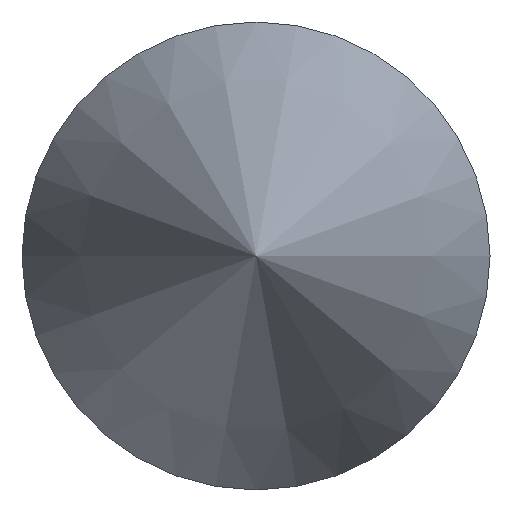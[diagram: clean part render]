
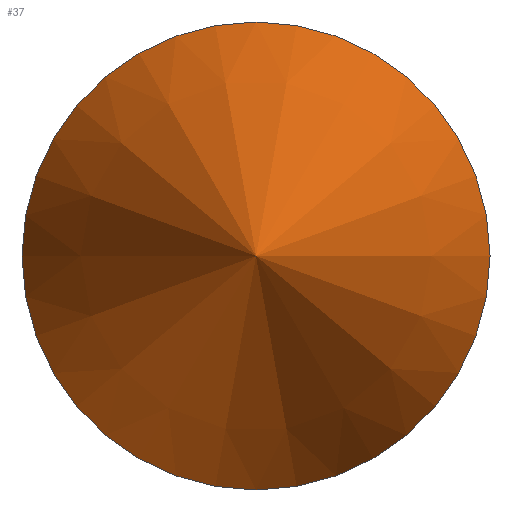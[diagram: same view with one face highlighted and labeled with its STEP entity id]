
A CAD part, front view. The second image highlights one B-rep face of the part: STEP entity #37.
In plain terms, the highlighted conical face has half-angle 22.954 degrees and reference radius 1.72 mm.
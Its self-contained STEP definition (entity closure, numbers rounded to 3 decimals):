
#17=CONICAL_SURFACE('',#43,1.72,22.954);
#19=FACE_OUTER_BOUND('',#22,.T.);
#22=EDGE_LOOP('',(#32));
#26=CIRCLE('',#44,1.7);
#28=VERTEX_POINT('',#63);
#30=EDGE_CURVE('',#28,#28,#26,.F.);
#32=ORIENTED_EDGE('',*,*,#30,.F.);
#37=ADVANCED_FACE('',(#19),#17,.T.);
#43=AXIS2_PLACEMENT_3D('',#62,#52,#53);
#44=AXIS2_PLACEMENT_3D('',#64,#54,#55);
#52=DIRECTION('center_axis',(0.,1.,0.));
#53=DIRECTION('ref_axis',(1.,0.,0.));
#54=DIRECTION('center_axis',(0.,-1.,0.));
#55=DIRECTION('ref_axis',(-1.,0.,0.));
#62=CARTESIAN_POINT('Origin',(-58.007,4.716,0.));
#63=CARTESIAN_POINT('',(-56.307,4.669,0.));
#64=CARTESIAN_POINT('Origin',(-58.007,4.669,0.));
